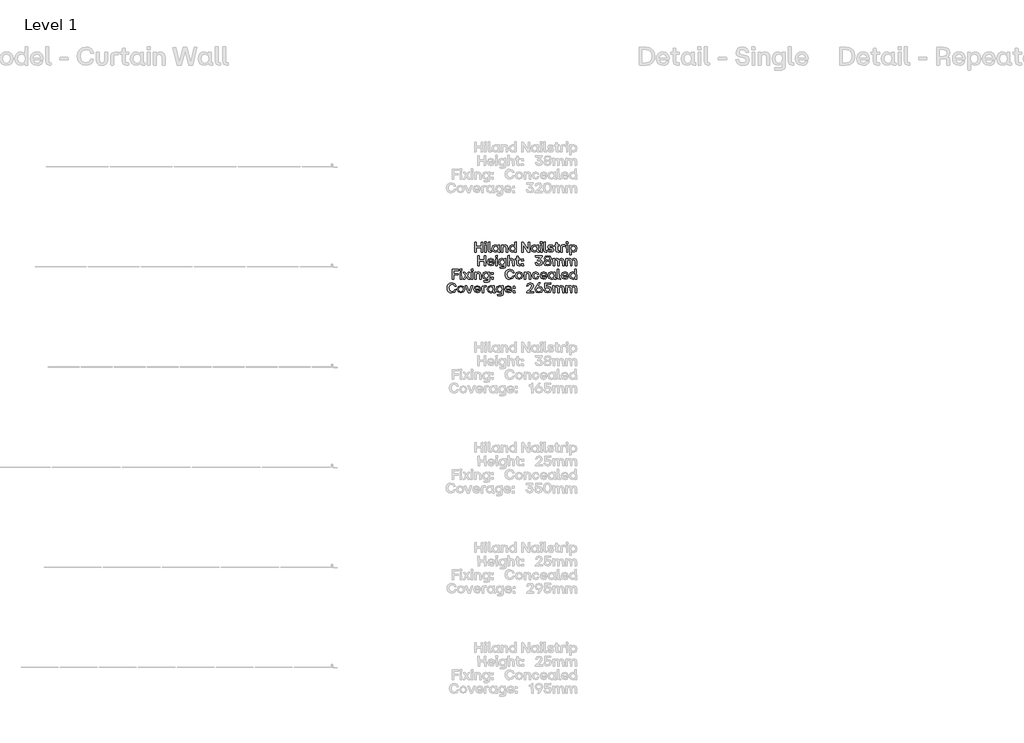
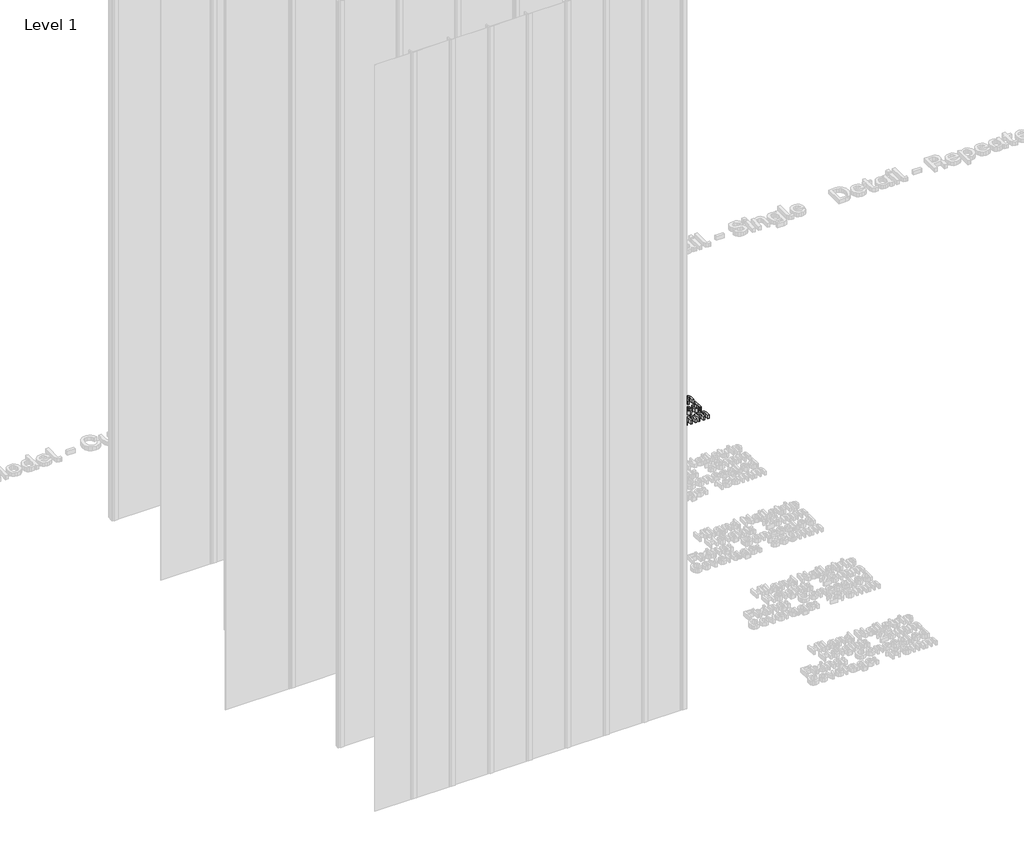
# One storey, part 30 of 64: 1 proxy.
"""IFC4 building model written with IfcOpenShell, lengths in millimetres."""

import ifcopenshell
import ifcopenshell.guid

model = None  # the IFC model being written
_history = None  # IfcOwnerHistory: only IFC2X3 demands one
_inside = {}  # id of a spatial element -> (the spatial element, [elements in it])
_under = {}  # id of a project, library or spatial element -> (it, [spatial elements below it])
_declared = {}  # id of a project -> (the project, [libraries it declares])
_typed = {}  # id of a type object -> (the type object, [elements of that type])
_made_of = {}  # id of a material, layer set ... -> (it, [elements and type objects made of it])


def new_model(schema):
    """Start an empty IFC model of exactly this schema.

    Asked for "IFC4X3", IfcOpenShell would pick the latest addendum, in which some entities
    have other attributes; the version numbers below select the first issue.
    IFC2X3 requires an IfcOwnerHistory on every rooted entity: one is made here for all.
    """
    global model, _history
    if schema == "IFC4X3":
        model = ifcopenshell.file(schema_version=(4, 3, 0, 0))
    else:
        model = ifcopenshell.file(schema=schema)
    _inside.clear()
    _under.clear()
    _declared.clear()
    _typed.clear()
    _made_of.clear()
    _history = None
    if model.schema == "IFC2X3":
        org = make("IfcOrganization", Name="unknown")
        user = make(
            "IfcPersonAndOrganization",
            ThePerson=make("IfcPerson", FamilyName="unknown"),
            TheOrganization=org,
        )
        app = make(
            "IfcApplication",
            ApplicationDeveloper=org,
            Version="unknown",
            ApplicationFullName="unknown",
            ApplicationIdentifier="unknown",
        )
        _history = make(
            "IfcOwnerHistory",
            OwningUser=user,
            OwningApplication=app,
            ChangeAction="ADDED",
            CreationDate=0,
        )
    return model


def make(cls, **values):
    """One entity of the class cls with the attributes given. An attribute that is None is left unset."""
    return model.create_entity(
        cls, **{name: value for name, value in values.items() if value is not None}
    )


def rooted(cls, **values):
    """An entity with a GlobalId (a new one), such as an element, a storey or a relation."""
    return make(cls, GlobalId=ifcopenshell.guid.new(), OwnerHistory=_history, **values)


def si_unit(unit_type, name, prefix=None):
    """IfcSIUnit, for example si_unit("LENGTHUNIT", "METRE", prefix="MILLI")."""
    return make("IfcSIUnit", UnitType=unit_type, Prefix=prefix, Name=name)


def assignment(units):
    """IfcUnitAssignment: the units of a project."""
    return None if units is None else make("IfcUnitAssignment", Units=units)


def point(xyz):
    """IfcCartesianPoint."""
    return None if xyz is None else make("IfcCartesianPoint", Coordinates=xyz)


def direction(xyz):
    """IfcDirection."""
    return None if xyz is None else make("IfcDirection", DirectionRatios=xyz)


def frame(location, z_axis=None, x_axis=None):
    """IfcAxis2Placement3D, a coordinate frame: its origin and axes. An axis left out is left unset."""
    return make(
        "IfcAxis2Placement3D",
        Location=point(location),
        Axis=direction(z_axis),
        RefDirection=direction(x_axis),
    )


def origin():
    """The frame at (0, 0, 0) with its axes left unset."""
    return frame((0.0, 0.0, 0.0))


def origin_with_axes():
    """The frame at (0, 0, 0) with the z axis (0, 0, 1) and the x axis (1, 0, 0) written out."""
    return frame((0.0, 0.0, 0.0), z_axis=(0.0, 0.0, 1.0), x_axis=(1.0, 0.0, 0.0))


def place(relative_to, where):
    """IfcLocalPlacement: puts the frame where relative to a parent placement (None: the world)."""
    return make(
        "IfcLocalPlacement", PlacementRelTo=relative_to, RelativePlacement=where
    )


def context(
    kind, dimensions, precision=None, world=None, true_north=None, identifier=None
):
    """IfcGeometricRepresentationContext, for example the 3D "Model" context."""
    return make(
        "IfcGeometricRepresentationContext",
        ContextIdentifier=identifier,
        ContextType=kind,
        CoordinateSpaceDimension=dimensions,
        Precision=precision,
        WorldCoordinateSystem=world,
        TrueNorth=true_north,
    )


def project(units=None, contexts=None):
    """IfcProject with its units and contexts."""
    return rooted(
        "IfcProject",
        Name="project",
        RepresentationContexts=contexts,
        UnitsInContext=assignment(units),
    )


def spatial(cls, under=None, at=None, **own):
    """A site, building, storey or space (cls), placed at a placement, below another one or the project."""
    s = rooted(cls, ObjectPlacement=at, **own)
    if under is not None:
        _under.setdefault(under.id(), (under, []))[1].append(s)
    return s


def polyline(points):
    """IfcPolyline through the points."""
    return make("IfcPolyline", Points=[point(p) for p in points])


def outline(outer, holes=None, kind="AREA"):
    """IfcArbitraryClosedProfileDef: a profile drawn as a closed curve; with holes, ...WithVoids."""
    if holes is None:
        return make("IfcArbitraryClosedProfileDef", ProfileType=kind, OuterCurve=outer)
    return make(
        "IfcArbitraryProfileDefWithVoids",
        ProfileType=kind,
        OuterCurve=outer,
        InnerCurves=holes,
    )


def extrude(swept, where, along, depth):
    """IfcExtrudedAreaSolid: the profile swept, set in the frame where, extruded along a direction by depth."""
    return make(
        "IfcExtrudedAreaSolid",
        SweptArea=swept,
        Position=where,
        ExtrudedDirection=direction(along),
        Depth=depth,
    )


def shape(context_of_items, identifier, shape_type, items):
    """IfcShapeRepresentation: the items that make up one representation, for example the "Body"."""
    return make(
        "IfcShapeRepresentation",
        ContextOfItems=context_of_items,
        RepresentationIdentifier=identifier,
        RepresentationType=shape_type,
        Items=items,
    )


def made_of(thing, what):
    """Note that an element or type object is made of a material, layer set ...; save() writes the relation."""
    if what is not None:
        _made_of.setdefault(what.id(), (what, []))[1].append(thing)
    return thing


def element(
    cls,
    number,
    at=None,
    inside=None,
    cuts=None,
    type_object=None,
    material=None,
    context=None,
    identifier="Body",
    shape_type=None,
    held_by="IfcProductDefinitionShape",
    body=None,
    shapes=None,
    **own,
):
    """One element of the class cls, such as IfcWall. Its Tag is "e" and its number.

    at: its placement. inside: the storey or other place that contains it. cuts: it is an
    opening in that element (IfcRelVoidsElement). A single representation is given by context,
    identifier, shape_type and body (its items); several are given by shapes. held_by: the class
    of the entity that holds the representations. save() writes the other relations.
    """
    e = rooted(cls, Tag="e%d" % number, ObjectPlacement=at, **own)
    if body is not None:
        shapes = [shape(context, identifier, shape_type, body)]
    if shapes is not None:
        e.Representation = make(held_by, Representations=shapes)
    if inside is not None:
        _inside.setdefault(inside.id(), (inside, []))[1].append(e)
    if cuts is not None:
        rooted(
            "IfcRelVoidsElement", RelatingBuildingElement=cuts, RelatedOpeningElement=e
        )
    if type_object is not None:
        _typed.setdefault(type_object.id(), (type_object, []))[1].append(e)
    return made_of(e, material)


def aggregate(whole, parts):
    """IfcRelAggregates: a whole, such as a stair, and the parts it consists of."""
    return rooted("IfcRelAggregates", RelatingObject=whole, RelatedObjects=parts)


def save(model, path):
    """Write the relations noted so far, then the file.

    IfcRelAggregates (storeys below a building ...), IfcRelContainedInSpatialStructure (elements
    in a storey), IfcRelDefinesByType, IfcRelAssociatesMaterial and IfcRelDeclares: one each for
    every whole, place, type object, material and project.
    """
    for whole, parts in _under.values():
        aggregate(whole, parts)
    for where, things in _inside.values():
        rooted(
            "IfcRelContainedInSpatialStructure",
            RelatedElements=things,
            RelatingStructure=where,
        )
    for kind, things in _typed.values():
        rooted("IfcRelDefinesByType", RelatedObjects=things, RelatingType=kind)
    for what, things in _made_of.values():
        rooted("IfcRelAssociatesMaterial", RelatedObjects=things, RelatingMaterial=what)
    for by, libraries in _declared.values():
        rooted("IfcRelDeclares", RelatingContext=by, RelatedDefinitions=libraries)
    model.write(path)


model = new_model("IFC4")

# Units and contexts
model_context = context("Model", 3, world=origin())
ifc_project = project(units=[si_unit("LENGTHUNIT", "METRE", prefix="MILLI")], contexts=[model_context])

# Site, building, storey
site = spatial("IfcSite", under=ifc_project)
building = spatial("IfcBuilding", under=site)
storey = spatial("IfcBuildingStorey", under=building, Name="Level 1", Elevation=0.0)

# Proxy
placement = place(None, origin())
element("IfcBuildingElementProxy", 1, Name="50mm", ObjectType="50mm", at=placement, inside=storey, context=model_context, shape_type="SweptSolid", body=[
    extrude(outline(polyline([(2520.0683519, -2433.5188866), (2519.3710201, -2411.5808277), (2495.5222721, -2411.5808277), (2495.5222721, -2432.8215548), (2488.0189817, -2433.5188866), (2487.2937566, -2384.2454206), (2494.7831003, -2383.5201955), (2495.5222721, -2404.6075096), (2519.3710201, -2404.6075096), (2519.3710201, -2384.2454206), (2526.8603638, -2383.5201955), (2527.5576956, -2432.8215548), (2520.0683519, -2433.5188866)])), origin_with_axes(), (0.0, 0.0, 1.0), 20.0),
    extrude(outline(polyline([(2537.6550603, -2433.5188866), (2536.9298352, -2397.8154977), (2544.1402462, -2397.1181659), (2544.837578, -2432.8215548), (2537.6550603, -2433.5188866)])), origin_with_axes(), (0.0, 0.0, 1.0), 20.0),
    extrude(outline(polyline([(2536.7206357, -2390.4516737), (2536.3719698, -2382.4044646), (2544.7678448, -2381.6652929), (2545.5070165, -2390.1030078), (2536.7206357, -2390.4516737)])), origin_with_axes(), (0.0, 0.0, 1.0), 20.0),
    extrude(outline(polyline([(2564.2373491, -2433.5188866), (2556.5388058, -2430.8690257), (2553.8889449, -2423.1565359), (2553.8889449, -2382.8228637), (2561.0993559, -2382.083692), (2561.7966877, -2427.2429003), (2568.4631799, -2427.2429003), (2569.1605117, -2432.8215548), (2564.2373491, -2433.5188866)])), origin_with_axes(), (0.0, 0.0, 1.0), 20.0),
    extrude(outline(polyline([(2589.3273478, -2433.9372857), (2577.5563867, -2428.8955767), (2573.1771429, -2415.3882594), (2577.5563867, -2401.7484491), (2589.3273478, -2396.6579269), (2595.9450267, -2398.2617901), (2600.9309491, -2402.6549805), (2601.2517218, -2397.8154977), (2608.4342395, -2397.1181659), (2609.1594646, -2427.2429003), (2613.1063626, -2427.2429003), (2613.8036944, -2432.8215548), (2607.8066408, -2433.5188866), (2603.151951, -2432.2113895), (2601.6003877, -2428.288898), (2596.2448794, -2432.3334225), (2589.3273478, -2433.9372857)]), holes=[polyline([(2581.2382987, -2415.3882594), (2583.9927594, -2424.2792401), (2591.5169696, -2427.521833), (2598.8807936, -2424.2931867), (2601.5306545, -2415.3882594), (2598.8598737, -2406.392679), (2591.5169696, -2403.1152195), (2583.9927594, -2406.392679), (2581.2382987, -2415.3882594)])]), origin_with_axes(), (0.0, 0.0, 1.0), 20.0),
    extrude(outline(polyline([(2620.6654395, -2433.5188866), (2619.9402144, -2397.8154977), (2626.8019595, -2397.1181659), (2627.4992913, -2402.6549805), (2632.6630334, -2398.1571903), (2639.2841989, -2396.6579269), (2648.8446181, -2400.8419178), (2652.1569442, -2413.0870644), (2652.1569442, -2432.8215548), (2644.9325866, -2433.5188866), (2644.2073616, -2413.0870644), (2642.2548325, -2405.7092939), (2636.0834459, -2403.3941522), (2629.8562728, -2405.7441604), (2627.8479572, -2413.0870644), (2627.8479572, -2432.8215548), (2620.6654395, -2433.5188866)])), origin_with_axes(), (0.0, 0.0, 1.0), 20.0),
    extrude(outline(polyline([(2675.0154811, -2433.9372857), (2663.2445201, -2428.8955767), (2658.8652763, -2415.3882594), (2663.2445201, -2401.7484491), (2675.0154811, -2396.6579269), (2681.63316, -2398.2617901), (2686.6190825, -2402.6549805), (2686.9398552, -2382.8228637), (2694.1223728, -2382.083692), (2694.8475979, -2432.8215548), (2687.9858529, -2433.5188866), (2687.2885211, -2428.0099653), (2681.9330127, -2432.3334225), (2675.0154811, -2433.9372857)]), holes=[polyline([(2666.9264321, -2415.3882594), (2669.6808927, -2424.2792401), (2677.205103, -2427.521833), (2684.568927, -2424.2931867), (2687.2187879, -2415.3882594), (2684.548007, -2406.392679), (2677.205103, -2403.1152195), (2669.6808927, -2406.392679), (2666.9264321, -2415.3882594)])]), origin_with_axes(), (0.0, 0.0, 1.0), 20.0),
    extrude(outline(polyline([(2721.8761791, -2433.5188866), (2721.150954, -2384.2454206), (2730.007068, -2383.5201955), (2753.2979506, -2420.7856077), (2753.5768834, -2384.2454206), (2760.7872943, -2383.5201955), (2761.4846261, -2432.8215548), (2752.670352, -2433.5188866), (2729.3794694, -2396.2395278), (2729.1005367, -2432.8215548), (2721.8761791, -2433.5188866)])), origin_with_axes(), (0.0, 0.0, 1.0), 20.0),
    extrude(outline(polyline([(2784.803402, -2433.9372857), (2773.032441, -2428.8955767), (2768.6531972, -2415.3882594), (2773.032441, -2401.7484491), (2784.803402, -2396.6579269), (2791.4210809, -2398.2617901), (2796.4070034, -2402.6549805), (2796.727776, -2397.8154977), (2803.9102937, -2397.1181659), (2804.6355188, -2427.2429003), (2808.5824169, -2427.2429003), (2809.2797487, -2432.8215548), (2803.2826951, -2433.5188866), (2798.6280052, -2432.2113895), (2797.076442, -2428.288898), (2791.7209336, -2432.3334225), (2784.803402, -2433.9372857)]), holes=[polyline([(2776.714353, -2415.3882594), (2779.4688136, -2424.2792401), (2786.9930239, -2427.521833), (2794.3568479, -2424.2931867), (2797.0067088, -2415.3882594), (2794.3359279, -2406.392679), (2786.9930239, -2403.1152195), (2779.4688136, -2406.392679), (2776.714353, -2415.3882594)])]), origin_with_axes(), (0.0, 0.0, 1.0), 20.0),
    extrude(outline(polyline([(2815.2070691, -2390.4516737), (2814.8584032, -2382.4044646), (2823.2542783, -2381.6652929), (2823.99345, -2390.1030078), (2815.2070691, -2390.4516737)])), origin_with_axes(), (0.0, 0.0, 1.0), 20.0),
    extrude(outline(polyline([(2816.1414938, -2433.5188866), (2815.4162687, -2397.8154977), (2822.6266796, -2397.1181659), (2823.3240115, -2432.8215548), (2816.1414938, -2433.5188866)])), origin_with_axes(), (0.0, 0.0, 1.0), 20.0),
    extrude(outline(polyline([(2842.7237825, -2433.5188866), (2835.0252393, -2430.8690257), (2832.3753784, -2423.1565359), (2832.3753784, -2382.8228637), (2839.5857894, -2382.083692), (2840.2831212, -2427.2429003), (2846.9496133, -2427.2429003), (2847.6469451, -2432.8215548), (2842.7237825, -2433.5188866)])), origin_with_axes(), (0.0, 0.0, 1.0), 20.0),
    extrude(outline(polyline([(2867.283809, -2433.9372857), (2856.5518724, -2430.9875721), (2852.0819755, -2422.5289372), (2859.0274004, -2421.7339789), (2862.109607, -2426.5455685), (2867.283809, -2427.8007657), (2871.7467327, -2426.6153017), (2873.420329, -2423.4354686), (2872.2209183, -2420.5764081), (2868.1624471, -2419.0841181), (2863.0719249, -2418.1775867), (2855.3454884, -2414.6351411), (2852.8490405, -2407.5363032), (2856.5100325, -2399.6215871), (2866.3772777, -2396.6579269), (2876.0701899, -2399.4123876), (2880.2960207, -2407.2294772), (2873.3505958, -2408.0244355), (2870.6031085, -2403.8613645), (2866.3772777, -2402.7944469), (2862.1235536, -2403.8962311), (2860.6591568, -2407.0900108), (2861.7051545, -2409.8584181), (2865.5125862, -2411.3716282), (2870.9517744, -2412.3897326), (2878.9641169, -2415.8763917), (2881.2304453, -2423.0170695), (2877.6043199, -2431.1130919), (2867.283809, -2433.9372857)])), origin_with_axes(), (0.0, 0.0, 1.0), 20.0),
    extrude(outline(polyline([(2903.0429845, -2433.5188866), (2895.3304946, -2430.8690257), (2892.6806337, -2423.1565359), (2892.6806337, -2403.3941522), (2886.4743806, -2403.3941522), (2885.7491555, -2397.8154977), (2892.6806337, -2397.1181659), (2892.6806337, -2387.104481), (2899.9049913, -2386.3792559), (2900.6023231, -2397.1181659), (2909.388704, -2397.1181659), (2910.1139291, -2402.6549805), (2900.6023231, -2403.3941522), (2900.6023231, -2427.2429003), (2909.388704, -2427.2429003), (2910.1139291, -2432.8215548), (2903.0429845, -2433.5188866)])), origin_with_axes(), (0.0, 0.0, 1.0), 20.0),
    extrude(outline(polyline([(2917.519593, -2433.5188866), (2916.8222612, -2407.4386768), (2919.4721221, -2399.7471068), (2927.1706653, -2397.1181659), (2937.3238165, -2397.1181659), (2938.0211483, -2403.1152195), (2924.7300039, -2403.8125513), (2924.7300039, -2432.8215548), (2917.519593, -2433.5188866)])), origin_with_axes(), (0.0, 0.0, 1.0), 20.0),
    extrude(outline(polyline([(2945.5662786, -2433.5188866), (2944.8410535, -2397.8154977), (2952.0514644, -2397.1181659), (2952.7487962, -2432.8215548), (2945.5662786, -2433.5188866)])), origin_with_axes(), (0.0, 0.0, 1.0), 20.0),
    extrude(outline(polyline([(2944.6318539, -2390.4516737), (2944.283188, -2382.4044646), (2952.6790631, -2381.6652929), (2953.4182348, -2390.1030078), (2944.6318539, -2390.4516737)])), origin_with_axes(), (0.0, 0.0, 1.0), 20.0),
    extrude(outline(polyline([(2962.5253883, -2447.0750171), (2961.8001632, -2397.8154977), (2968.6619083, -2397.1181659), (2969.3592401, -2402.5852473), (2974.7147484, -2398.2617901), (2981.63228, -2396.6579269), (2993.403241, -2401.7135826), (2997.7824848, -2415.2487931), (2993.403241, -2428.8607101), (2981.63228, -2433.9372857), (2975.0146011, -2432.3334225), (2970.0286786, -2427.9402321), (2969.707906, -2446.3776853), (2962.5253883, -2447.0750171)]), holes=[polyline([(2969.4289732, -2415.2487931), (2972.0997541, -2424.2443735), (2979.4426581, -2427.521833), (2986.9668684, -2424.2443735), (2989.7213291, -2415.2487931), (2986.9668684, -2406.3578124), (2979.4426581, -2403.1152195), (2972.0788341, -2406.3368925), (2969.4289732, -2415.2487931)])]), origin_with_axes(), (0.0, 0.0, 1.0), 20.0),
    extrude(outline(polyline([(2534.3497075, -2501.3705811), (2533.6523757, -2479.4325222), (2509.8036276, -2479.4325222), (2509.8036276, -2500.6732493), (2502.3003373, -2501.3705811), (2501.5751122, -2452.0971151), (2509.0644559, -2451.37189), (2509.8036276, -2472.459204), (2533.6523757, -2472.459204), (2533.6523757, -2452.0971151), (2541.1417194, -2451.37189), (2541.8390512, -2500.6732493), (2534.3497075, -2501.3705811)])), origin_with_axes(), (0.0, 0.0, 1.0), 20.0),
    extrude(outline(polyline([(2567.4869153, -2501.7889802), (2554.0841978, -2496.7472711), (2549.0773554, -2483.2399539), (2554.0632779, -2469.586197), (2567.4869153, -2464.5096214), (2579.7669286, -2469.5164638), (2584.2647188, -2483.1702207), (2584.2647188, -2485.0809099), (2557.2082444, -2485.8200816), (2560.2765044, -2492.8631329), (2567.4869153, -2495.3735275), (2573.2747694, -2494.0974102), (2576.2732962, -2490.520098), (2583.3581874, -2489.9343393), (2578.7000109, -2498.6998002), (2567.4869153, -2501.7889802)]), holes=[polyline([(2557.2779776, -2480.0322275), (2576.4824957, -2480.0322275), (2573.8396081, -2473.3866554), (2567.4869153, -2470.966914), (2560.3950508, -2473.2681089), (2557.2779776, -2480.0322275)])]), origin_with_axes(), (0.0, 0.0, 1.0), 20.0),
    extrude(outline(polyline([(2591.1683037, -2458.3033682), (2590.8196378, -2450.2561591), (2599.2155129, -2449.5169873), (2599.9546846, -2457.9547023), (2591.1683037, -2458.3033682)])), origin_with_axes(), (0.0, 0.0, 1.0), 20.0),
    extrude(outline(polyline([(2592.1027284, -2501.3705811), (2591.3775033, -2465.6671922), (2598.5879142, -2464.9698603), (2599.2852461, -2500.6732493), (2592.1027284, -2501.3705811)])), origin_with_axes(), (0.0, 0.0, 1.0), 20.0),
    extrude(outline(polyline([(2613.7758012, -2514.9267115), (2613.0366294, -2509.348057), (2634.2773565, -2508.6507252), (2634.2773565, -2495.7919266), (2628.9706614, -2500.185117), (2622.3529825, -2501.7889802), (2610.5820215, -2496.7124045), (2606.2027777, -2483.1004875), (2610.5820215, -2469.565277), (2622.3529825, -2464.5096214), (2629.2705141, -2466.1134845), (2634.3470897, -2470.4369418), (2634.6260224, -2465.6671922), (2641.4598742, -2464.9698603), (2642.1850993, -2504.9269733), (2639.6049716, -2512.3675038), (2632.1853611, -2514.9267115), (2613.7758012, -2514.9267115)]), holes=[polyline([(2614.2639334, -2483.1004875), (2617.0183941, -2492.0960679), (2624.5426044, -2495.3735275), (2631.8855084, -2492.0960679), (2634.5562892, -2483.1004875), (2631.9064284, -2474.1885869), (2624.5426044, -2470.966914), (2617.0183941, -2474.2095069), (2614.2639334, -2483.1004875)])]), origin_with_axes(), (0.0, 0.0, 1.0), 20.0),
    extrude(outline(polyline([(2651.9059048, -2501.3705811), (2651.1806797, -2450.6745581), (2658.3910907, -2449.9353864), (2659.0884225, -2470.2277422), (2664.1754581, -2465.9391516), (2670.5246642, -2464.5096214), (2680.0850834, -2468.6936122), (2683.3974095, -2480.9387589), (2683.3974095, -2500.6732493), (2676.1730519, -2501.3705811), (2675.4478269, -2480.9387589), (2673.4952978, -2473.5609883), (2667.3239112, -2471.2458467), (2661.0967381, -2473.5958549), (2659.0884225, -2480.9387589), (2659.0884225, -2500.6732493), (2651.9059048, -2501.3705811)])), origin_with_axes(), (0.0, 0.0, 1.0), 20.0),
    extrude(outline(polyline([(2706.6743455, -2501.3705811), (2698.9618556, -2498.7207202), (2696.3119947, -2491.0082303), (2696.3119947, -2471.2458467), (2690.1057416, -2471.2458467), (2689.3805165, -2465.6671922), (2696.3119947, -2464.9698603), (2696.3119947, -2454.9561755), (2703.5363523, -2454.2309504), (2704.2336842, -2464.9698603), (2713.020065, -2464.9698603), (2713.7452901, -2470.506675), (2704.2336842, -2471.2458467), (2704.2336842, -2495.0945947), (2713.020065, -2495.0945947), (2713.7452901, -2500.6732493), (2706.6743455, -2501.3705811)])), origin_with_axes(), (0.0, 0.0, 1.0), 20.0),
    extrude(outline(polyline([(2721.150954, -2477.7310326), (2720.4536222, -2468.1078535), (2729.9373348, -2467.3686818), (2730.6625599, -2477.0337007), (2721.150954, -2477.7310326)])), origin_with_axes(), (0.0, 0.0, 1.0), 20.0),
    extrude(outline(polyline([(2720.8022881, -2501.0219152), (2720.4536222, -2491.747402), (2729.9373348, -2491.0082303), (2730.6625599, -2500.6732493), (2720.8022881, -2501.0219152)])), origin_with_axes(), (0.0, 0.0, 1.0), 20.0),
    extrude(outline(polyline([(2808.2755909, -2501.7889802), (2794.8798467, -2497.7235357), (2789.0571261, -2485.959548), (2796.42095, -2485.1506431), (2800.584021, -2492.7236666), (2808.2755909, -2494.9551284), (2815.4162687, -2492.5493336), (2818.0661296, -2485.959548), (2815.2977223, -2479.0908296), (2806.6298878, -2476.8942344), (2801.1906997, -2476.8942344), (2800.4933678, -2472.8078699), (2813.8542454, -2458.6520341), (2791.1491215, -2458.3731014), (2790.4238964, -2452.0971151), (2824.1329164, -2451.37189), (2824.8302482, -2456.1834795), (2811.9296096, -2470.0882759), (2822.6545729, -2475.2136647), (2826.2667517, -2485.959548), (2821.4202956, -2497.5352561), (2808.2755909, -2501.7889802)])), origin_with_axes(), (0.0, 0.0, 1.0), 20.0),
    extrude(outline(polyline([(2865.4289064, -2498.1768014), (2851.3846437, -2501.7889802), (2837.3124877, -2498.1768014), (2832.3753784, -2487.8702371), (2834.8509064, -2480.1368273), (2841.5104252, -2475.8063967), (2835.9457173, -2471.1691402), (2834.0908147, -2464.370155), (2838.7768845, -2454.5796163), (2851.3776704, -2450.9534909), (2863.9645096, -2454.5796163), (2868.6366328, -2464.370155), (2866.7817301, -2471.1691402), (2861.2170223, -2475.527464), (2867.8765411, -2480.1368273), (2870.352069, -2487.8702371), (2865.4289064, -2498.1768014)]), holes=[polyline([(2840.5760005, -2486.9358125), (2843.2781613, -2492.9502994), (2851.3846437, -2494.9551284), (2859.4597461, -2492.9502994), (2862.1514469, -2486.9358125), (2859.4597461, -2481.3606446), (2851.3846437, -2479.5022554), (2843.2781613, -2481.3606446), (2840.5760005, -2486.9358125)]), polyline([(2842.3193301, -2465.4579926), (2844.6553917, -2470.8065276), (2851.3846437, -2472.6684036), (2858.1138957, -2470.8065276), (2860.4499573, -2465.4579926), (2858.1138957, -2459.788685), (2851.3846437, -2457.8152359), (2844.6553917, -2459.788685), (2842.3193301, -2465.4579926)])]), origin_with_axes(), (0.0, 0.0, 1.0), 20.0),
    extrude(outline(polyline([(2878.6224244, -2501.3705811), (2877.8971993, -2465.6671922), (2884.7589443, -2464.9698603), (2885.4562761, -2470.506675), (2890.4421986, -2466.0088848), (2896.8925179, -2464.5096214), (2903.1789642, -2466.0088848), (2907.394335, -2470.506675), (2913.2170557, -2466.0646713), (2920.4623332, -2464.5096214), (2929.7368464, -2468.6796656), (2932.9445727, -2480.9387589), (2932.9445727, -2500.6732493), (2925.7341617, -2501.3705811), (2925.0368299, -2480.9387589), (2923.154034, -2473.5609883), (2917.1848737, -2471.2458467), (2911.2784732, -2473.5958549), (2909.3747574, -2480.9387589), (2909.3747574, -2500.6732493), (2902.1643464, -2501.3705811), (2901.4670146, -2480.9387589), (2899.5981653, -2473.5609883), (2893.6847915, -2471.2458467), (2887.7086579, -2473.5958549), (2885.804942, -2480.9387589), (2885.804942, -2500.6732493), (2878.6224244, -2501.3705811)])), origin_with_axes(), (0.0, 0.0, 1.0), 20.0),
    extrude(outline(polyline([(2941.9959397, -2501.3705811), (2941.2707146, -2465.6671922), (2948.1324596, -2464.9698603), (2948.8297914, -2470.506675), (2953.8157139, -2466.0088848), (2960.2660332, -2464.5096214), (2966.5524795, -2466.0088848), (2970.7678503, -2470.506675), (2976.590571, -2466.0646713), (2983.8358485, -2464.5096214), (2993.1103617, -2468.6796656), (2996.318088, -2480.9387589), (2996.318088, -2500.6732493), (2989.1076771, -2501.3705811), (2988.4103452, -2480.9387589), (2986.5275493, -2473.5609883), (2980.558389, -2471.2458467), (2974.6519885, -2473.5958549), (2972.7482727, -2480.9387589), (2972.7482727, -2500.6732493), (2965.5378617, -2501.3705811), (2964.8405299, -2480.9387589), (2962.9716806, -2473.5609883), (2957.0583069, -2471.2458467), (2951.0821732, -2473.5958549), (2949.1784574, -2480.9387589), (2949.1784574, -2500.6732493), (2941.9959397, -2501.3705811)])), origin_with_axes(), (0.0, 0.0, 1.0), 20.0),
    extrude(outline(polyline([(2374.6607219, -2569.2222755), (2373.9354969, -2519.9488095), (2405.5246281, -2519.2235844), (2406.2219599, -2525.527464), (2382.1640123, -2526.2247958), (2382.1640123, -2541.287163), (2404.0881245, -2541.287163), (2404.7854563, -2547.5631494), (2382.1640123, -2548.3023211), (2382.1640123, -2568.5249437), (2374.6607219, -2569.2222755)])), origin_with_axes(), (0.0, 0.0, 1.0), 20.0),
    extrude(outline(polyline([(2414.4783686, -2569.2222755), (2413.7531435, -2533.5188866), (2420.9635544, -2532.8215548), (2421.6608863, -2568.5249437), (2414.4783686, -2569.2222755)])), origin_with_axes(), (0.0, 0.0, 1.0), 20.0),
    extrude(outline(polyline([(2413.5439439, -2526.1550627), (2413.195278, -2518.1078535), (2421.5911531, -2517.3686818), (2422.3303248, -2525.8063967), (2413.5439439, -2526.1550627)])), origin_with_axes(), (0.0, 0.0, 1.0), 20.0),
    extrude(outline(polyline([(2428.5784179, -2569.2222755), (2441.3395901, -2550.7429824), (2429.1362833, -2533.658353), (2437.1277059, -2532.8215548), (2445.9140868, -2544.815662), (2454.1426022, -2533.2399539), (2462.2595445, -2532.8215548), (2450.6559431, -2549.9340775), (2463.696048, -2568.3436374), (2455.7046254, -2569.2222755), (2445.9838199, -2555.7916648), (2436.7093068, -2568.8038764), (2428.5784179, -2569.2222755)])), origin_with_axes(), (0.0, 0.0, 1.0), 20.0),
    extrude(outline(polyline([(2470.7112061, -2569.2222755), (2469.985981, -2533.5188866), (2477.196392, -2532.8215548), (2477.8937238, -2568.5249437), (2470.7112061, -2569.2222755)])), origin_with_axes(), (0.0, 0.0, 1.0), 20.0),
    extrude(outline(polyline([(2469.7767815, -2526.1550627), (2469.4281156, -2518.1078535), (2477.8239906, -2517.3686818), (2478.5631623, -2525.8063967), (2469.7767815, -2526.1550627)])), origin_with_axes(), (0.0, 0.0, 1.0), 20.0),
    extrude(outline(polyline([(2487.6703158, -2569.2222755), (2486.9450907, -2533.5188866), (2493.8068358, -2532.8215548), (2494.5041676, -2538.3583694), (2499.6679097, -2533.8605792), (2506.2890753, -2532.3613158), (2515.8494944, -2536.5453067), (2519.1618206, -2548.7904534), (2519.1618206, -2568.5249437), (2511.937463, -2569.2222755), (2511.2122379, -2548.7904534), (2509.2597088, -2541.4126828), (2503.0883222, -2539.0975411), (2496.8611491, -2541.4475493), (2494.8528335, -2548.7904534), (2494.8528335, -2568.5249437), (2487.6703158, -2569.2222755)])), origin_with_axes(), (0.0, 0.0, 1.0), 20.0),
    extrude(outline(polyline([(2533.4431761, -2582.778406), (2532.7040044, -2577.1997515), (2553.9447315, -2576.5024197), (2553.9447315, -2563.643621), (2548.6380364, -2568.0368114), (2542.0203574, -2569.6406746), (2530.2493964, -2564.564099), (2525.8701526, -2550.952182), (2530.2493964, -2537.4169715), (2542.0203574, -2532.3613158), (2548.9378891, -2533.965179), (2554.0144647, -2538.2886362), (2554.2933974, -2533.5188866), (2561.1272492, -2532.8215548), (2561.8524743, -2572.7786678), (2559.2723465, -2580.2191982), (2551.852736, -2582.778406), (2533.4431761, -2582.778406)]), holes=[polyline([(2533.9313084, -2550.952182), (2536.6857691, -2559.9477624), (2544.2099793, -2563.2252219), (2551.5528834, -2559.9477624), (2554.2236642, -2550.952182), (2551.5738033, -2542.0402814), (2544.2099793, -2538.8186084), (2536.6857691, -2542.0612013), (2533.9313084, -2550.952182)])]), origin_with_axes(), (0.0, 0.0, 1.0), 20.0),
    extrude(outline(polyline([(2571.1967206, -2545.582727), (2570.4993888, -2535.959548), (2579.9831014, -2535.2203762), (2580.7083265, -2544.8853952), (2571.1967206, -2545.582727)])), origin_with_axes(), (0.0, 0.0, 1.0), 20.0),
    extrude(outline(polyline([(2570.8480547, -2568.8736096), (2570.4993888, -2559.5990965), (2579.9831014, -2558.8599248), (2580.7083265, -2568.5249437), (2570.8480547, -2568.8736096)])), origin_with_axes(), (0.0, 0.0, 1.0), 20.0),
    extrude(outline(polyline([(2662.9516407, -2569.6406746), (2652.9449292, -2567.9269817), (2645.2394126, -2562.7859029), (2640.3232234, -2554.7160305), (2638.6844936, -2544.2159567), (2640.33717, -2533.8919591), (2645.2951992, -2525.7924501), (2653.0146624, -2520.5520015), (2662.9516407, -2518.8051853), (2677.1283965, -2523.4215219), (2684.0807947, -2535.7085085), (2676.7588107, -2536.5174134), (2671.5950686, -2528.3272513), (2662.9516407, -2525.8063967), (2651.2922528, -2530.743506), (2647.0524754, -2544.2159567), (2651.2713328, -2557.7999804), (2662.9516407, -2562.6673565), (2671.7659149, -2560.1813685), (2676.4519847, -2552.7234048), (2683.8715952, -2552.0679129), (2677.4073293, -2565.0382846), (2662.9516407, -2569.6406746)])), origin_with_axes(), (0.0, 0.0, 1.0), 20.0),
    extrude(outline(polyline([(2708.306102, -2569.6406746), (2695.1474506, -2564.5152858), (2690.1057416, -2551.0916483), (2695.1613973, -2537.5564378), (2708.306102, -2532.3613158), (2721.5763264, -2537.5564378), (2726.6459287, -2551.0916483), (2721.5763264, -2564.5152858), (2708.306102, -2569.6406746)]), holes=[polyline([(2698.1668974, -2551.0916483), (2700.8655715, -2559.9965756), (2708.306102, -2563.2252219), (2715.8442589, -2559.982629), (2718.5987195, -2551.0916483), (2715.8582055, -2542.0960679), (2708.306102, -2538.8186084), (2700.8655715, -2542.0960679), (2698.1668974, -2551.0916483)])]), origin_with_axes(), (0.0, 0.0, 1.0), 20.0),
    extrude(outline(polyline([(2734.916284, -2569.2222755), (2734.1910589, -2533.5188866), (2741.052804, -2532.8215548), (2741.7501358, -2538.3583694), (2746.9138779, -2533.8605792), (2753.5350435, -2532.3613158), (2763.0954626, -2536.5453067), (2766.4077887, -2548.7904534), (2766.4077887, -2568.5249437), (2759.1834311, -2569.2222755), (2758.4582061, -2548.7904534), (2756.505677, -2541.4126828), (2750.3342904, -2539.0975411), (2744.1071173, -2541.4475493), (2742.0988017, -2548.7904534), (2742.0988017, -2568.5249437), (2734.916284, -2569.2222755)])), origin_with_axes(), (0.0, 0.0, 1.0), 20.0),
    extrude(outline(polyline([(2791.4559475, -2569.6406746), (2778.1229632, -2564.5989656), (2773.1161208, -2551.0916483), (2778.1926964, -2537.5564378), (2791.4559475, -2532.3613158), (2802.5295767, -2535.7991616), (2807.7456187, -2544.8853952), (2800.7304607, -2545.6524602), (2797.1601218, -2540.3527384), (2791.4559475, -2538.8186084), (2783.8968707, -2542.0960679), (2781.1772766, -2551.0916483), (2783.9108173, -2560.0174956), (2791.4559475, -2563.2252219), (2797.3344547, -2561.7608251), (2800.3120616, -2557.0189688), (2807.3969528, -2556.3495302), (2802.7387763, -2566.2028288), (2791.4559475, -2569.6406746)])), origin_with_axes(), (0.0, 0.0, 1.0), 20.0),
    extrude(outline(polyline([(2831.6919932, -2569.6406746), (2818.2892758, -2564.5989656), (2813.2824333, -2551.0916483), (2818.2683558, -2537.4378914), (2831.6919932, -2532.3613158), (2843.9720065, -2537.3681582), (2848.4697967, -2551.0219152), (2848.4697967, -2552.9326043), (2821.4133223, -2553.6717761), (2824.4815823, -2560.7148274), (2831.6919932, -2563.2252219), (2837.4798473, -2561.9491047), (2840.4783741, -2558.3717925), (2847.5632653, -2557.7860338), (2842.9050888, -2566.5514947), (2831.6919932, -2569.6406746)]), holes=[polyline([(2821.4830555, -2547.883922), (2840.6875736, -2547.883922), (2838.0446861, -2541.2383498), (2831.6919932, -2538.8186084), (2824.6001287, -2541.1198034), (2821.4830555, -2547.883922)])]), origin_with_axes(), (0.0, 0.0, 1.0), 20.0),
    extrude(outline(polyline([(2869.5989507, -2569.6406746), (2857.8279896, -2564.5989656), (2853.4487458, -2551.0916483), (2857.8279896, -2537.4518381), (2869.5989507, -2532.3613158), (2876.2166296, -2533.965179), (2881.2025521, -2538.3583694), (2881.5233247, -2533.5188866), (2888.7058424, -2532.8215548), (2889.4310675, -2562.9462892), (2893.3779655, -2562.9462892), (2894.0752974, -2568.5249437), (2888.0782438, -2569.2222755), (2883.4235539, -2567.9147784), (2881.8719906, -2563.9922869), (2876.5164823, -2568.0368114), (2869.5989507, -2569.6406746)]), holes=[polyline([(2861.5099016, -2551.0916483), (2864.2643623, -2559.982629), (2871.7885726, -2563.2252219), (2879.1523965, -2559.9965756), (2881.8022574, -2551.0916483), (2879.1314766, -2542.0960679), (2871.7885726, -2538.8186084), (2864.2643623, -2542.0960679), (2861.5099016, -2551.0916483)])]), origin_with_axes(), (0.0, 0.0, 1.0), 20.0),
    extrude(outline(polyline([(2910.5602215, -2569.2222755), (2902.8616782, -2566.5724146), (2900.2118173, -2558.8599248), (2900.2118173, -2518.5262526), (2907.4222283, -2517.7870809), (2908.1195601, -2562.9462892), (2914.7860523, -2562.9462892), (2915.4833841, -2568.5249437), (2910.5602215, -2569.2222755)])), origin_with_axes(), (0.0, 0.0, 1.0), 20.0),
    extrude(outline(polyline([(2937.9095752, -2569.6406746), (2924.5068578, -2564.5989656), (2919.5000153, -2551.0916483), (2924.4859378, -2537.4378914), (2937.9095752, -2532.3613158), (2950.1895885, -2537.3681582), (2954.6873787, -2551.0219152), (2954.6873787, -2552.9326043), (2927.6309043, -2553.6717761), (2930.6991643, -2560.7148274), (2937.9095752, -2563.2252219), (2943.6974293, -2561.9491047), (2946.6959561, -2558.3717925), (2953.7808473, -2557.7860338), (2949.1226708, -2566.5514947), (2937.9095752, -2569.6406746)]), holes=[polyline([(2927.7006375, -2547.883922), (2946.9051556, -2547.883922), (2944.2622681, -2541.2383498), (2937.9095752, -2538.8186084), (2930.8177107, -2541.1198034), (2927.7006375, -2547.883922)])]), origin_with_axes(), (0.0, 0.0, 1.0), 20.0),
    extrude(outline(polyline([(2975.8165327, -2569.6406746), (2964.0455716, -2564.5989656), (2959.6663278, -2551.0916483), (2964.0455716, -2537.4518381), (2975.8165327, -2532.3613158), (2982.4342116, -2533.965179), (2987.4201341, -2538.3583694), (2987.7409067, -2518.5262526), (2994.9234244, -2517.7870809), (2995.6486495, -2568.5249437), (2988.7869044, -2569.2222755), (2988.0895726, -2563.7133542), (2982.7340643, -2568.0368114), (2975.8165327, -2569.6406746)]), holes=[polyline([(2967.7274836, -2551.0916483), (2970.4819443, -2559.982629), (2978.0061546, -2563.2252219), (2985.3699785, -2559.9965756), (2988.0198394, -2551.0916483), (2985.3490586, -2542.0960679), (2978.0061546, -2538.8186084), (2970.4819443, -2542.0960679), (2967.7274836, -2551.0916483)])]), origin_with_axes(), (0.0, 0.0, 1.0), 20.0),
    extrude(outline(polyline([(2372.8616059, -2637.4923691), (2362.8548943, -2635.7786761), (2355.1493778, -2630.6375973), (2350.2331885, -2622.5677249), (2348.5944587, -2612.0676511), (2350.2471351, -2601.7436536), (2355.2051643, -2593.6441446), (2362.9246275, -2588.403696), (2372.8616059, -2586.6568798), (2387.0383617, -2591.2732164), (2393.9907598, -2603.560203), (2386.6687758, -2604.3691079), (2381.5050337, -2596.1789457), (2372.8616059, -2593.6580912), (2361.2022179, -2598.5952004), (2356.9624405, -2612.0676511), (2361.181298, -2625.6516749), (2372.8616059, -2630.5190509), (2381.67588, -2628.033063), (2386.3619498, -2620.5750992), (2393.7815603, -2619.9196073), (2387.3172944, -2632.8899791), (2372.8616059, -2637.4923691)])), origin_with_axes(), (0.0, 0.0, 1.0), 20.0),
    extrude(outline(polyline([(2418.2160671, -2637.4923691), (2405.0574157, -2632.3669802), (2400.0157067, -2618.9433428), (2405.0713624, -2605.4081323), (2418.2160671, -2600.2130103), (2431.4862915, -2605.4081323), (2436.5558938, -2618.9433428), (2431.4862915, -2632.3669802), (2418.2160671, -2637.4923691)]), holes=[polyline([(2408.0768625, -2618.9433428), (2410.7755366, -2627.8482701), (2418.2160671, -2631.0769164), (2425.754224, -2627.8343234), (2428.5086847, -2618.9433428), (2425.7681706, -2609.9477624), (2418.2160671, -2606.6703029), (2410.7755366, -2609.9477624), (2408.0768625, -2618.9433428)])]), origin_with_axes(), (0.0, 0.0, 1.0), 20.0),
    extrude(outline(polyline([(2454.6586277, -2637.07397), (2440.2656991, -2601.5100474), (2447.5179499, -2600.6732493), (2458.9541917, -2630.5887841), (2469.7907281, -2601.2311147), (2477.1545521, -2600.6732493), (2464.0447139, -2636.5161045), (2454.6586277, -2637.07397)])), origin_with_axes(), (0.0, 0.0, 1.0), 20.0),
    extrude(outline(polyline([(2499.6504764, -2637.4923691), (2486.2477589, -2632.45066), (2481.2409165, -2618.9433428), (2486.226839, -2605.2895859), (2499.6504764, -2600.2130103), (2511.9304896, -2605.2198527), (2516.4282799, -2618.8736096), (2516.4282799, -2620.7842988), (2489.3718054, -2621.5234705), (2492.4400654, -2628.5665218), (2499.6504764, -2631.0769164), (2505.4383305, -2629.8007992), (2508.4368573, -2626.2234869), (2515.5217485, -2625.6377282), (2510.863572, -2634.4031891), (2499.6504764, -2637.4923691)]), holes=[polyline([(2489.4415386, -2615.7356165), (2508.6460568, -2615.7356165), (2506.0031692, -2609.0900443), (2499.6504764, -2606.6703029), (2492.5586118, -2608.9714978), (2489.4415386, -2615.7356165)])]), origin_with_axes(), (0.0, 0.0, 1.0), 20.0),
    extrude(outline(polyline([(2523.8897303, -2637.07397), (2523.1923985, -2610.9937601), (2525.8422594, -2603.3021902), (2533.5408026, -2600.6732493), (2543.6939538, -2600.6732493), (2544.3912856, -2606.6703029), (2531.1001412, -2607.3676347), (2531.1001412, -2636.3766382), (2523.8897303, -2637.07397)])), origin_with_axes(), (0.0, 0.0, 1.0), 20.0),
    extrude(outline(polyline([(2565.2275602, -2637.4923691), (2553.4565992, -2632.45066), (2549.0773554, -2618.9433428), (2553.4565992, -2605.3035325), (2565.2275602, -2600.2130103), (2571.8452392, -2601.8168734), (2576.8311616, -2606.2100639), (2577.1519343, -2601.3705811), (2584.334452, -2600.6732493), (2585.059677, -2630.7979836), (2589.0065751, -2630.7979836), (2589.7039069, -2636.3766382), (2583.7068533, -2637.07397), (2579.0521635, -2635.7664728), (2577.5006002, -2631.8439814), (2572.1450918, -2635.8885059), (2565.2275602, -2637.4923691)]), holes=[polyline([(2557.1385112, -2618.9433428), (2559.8929719, -2627.8343234), (2567.4171821, -2631.0769164), (2574.7810061, -2627.8482701), (2577.430867, -2618.9433428), (2574.7600861, -2609.9477624), (2567.4171821, -2606.6703029), (2559.8929719, -2609.9477624), (2557.1385112, -2618.9433428)])]), origin_with_axes(), (0.0, 0.0, 1.0), 20.0),
    extrude(outline(polyline([(2601.2796151, -2650.6301005), (2600.5404433, -2645.0514459), (2621.7811704, -2644.3541141), (2621.7811704, -2631.4953155), (2616.4744753, -2635.8885059), (2609.8567964, -2637.4923691), (2598.0858353, -2632.4157935), (2593.7065915, -2618.8038764), (2598.0858353, -2605.2686659), (2609.8567964, -2600.2130103), (2616.774328, -2601.8168734), (2621.8509036, -2606.1403307), (2622.1298363, -2601.3705811), (2628.9636881, -2600.6732493), (2629.6889132, -2640.6303622), (2627.1087855, -2648.0708927), (2619.689175, -2650.6301005), (2601.2796151, -2650.6301005)]), holes=[polyline([(2601.7677473, -2618.8038764), (2604.522208, -2627.7994568), (2612.0464183, -2631.0769164), (2619.3893223, -2627.7994568), (2622.0601031, -2618.8038764), (2619.4102422, -2609.8919758), (2612.0464183, -2606.6703029), (2604.522208, -2609.9128958), (2601.7677473, -2618.8038764)])]), origin_with_axes(), (0.0, 0.0, 1.0), 20.0),
    extrude(outline(polyline([(2654.9602181, -2637.4923691), (2641.5575007, -2632.45066), (2636.5506582, -2618.9433428), (2641.5365807, -2605.2895859), (2654.9602181, -2600.2130103), (2667.2402314, -2605.2198527), (2671.7380216, -2618.8736096), (2671.7380216, -2620.7842988), (2644.6815472, -2621.5234705), (2647.7498072, -2628.5665218), (2654.9602181, -2631.0769164), (2660.7480722, -2629.8007992), (2663.746599, -2626.2234869), (2670.8314902, -2625.6377282), (2666.1733137, -2634.4031891), (2654.9602181, -2637.4923691)]), holes=[polyline([(2644.7512804, -2615.7356165), (2663.9557985, -2615.7356165), (2661.312911, -2609.0900443), (2654.9602181, -2606.6703029), (2647.8683536, -2608.9714978), (2644.7512804, -2615.7356165)])]), origin_with_axes(), (0.0, 0.0, 1.0), 20.0),
    extrude(outline(polyline([(2679.199472, -2613.4344215), (2678.5021402, -2603.8112424), (2687.9858529, -2603.0720707), (2688.711078, -2612.7370896), (2679.199472, -2613.4344215)])), origin_with_axes(), (0.0, 0.0, 1.0), 20.0),
    extrude(outline(polyline([(2678.8508061, -2636.7253041), (2678.5021402, -2627.4507909), (2687.9858529, -2626.7116192), (2688.711078, -2636.3766382), (2678.8508061, -2636.7253041)])), origin_with_axes(), (0.0, 0.0, 1.0), 20.0),
    extrude(outline(polyline([(2746.687245, -2637.07397), (2745.9620199, -2632.2902737), (2763.3255821, -2616.2934819), (2770.4732332, -2608.3787658), (2772.4606289, -2601.0916483), (2770.4802065, -2595.4118807), (2764.5389395, -2593.5186248), (2757.6702211, -2595.5966736), (2754.818134, -2602.1655393), (2747.3845768, -2602.8628712), (2751.9730202, -2590.6665377), (2764.5389395, -2586.6568798), (2776.3656871, -2590.5270714), (2780.6891443, -2601.0916483), (2778.0044168, -2610.8682404), (2768.8345035, -2621.2724311), (2759.3786841, -2629.7798792), (2782.1117012, -2630.0588119), (2782.809033, -2636.3766382), (2746.687245, -2637.07397)])), origin_with_axes(), (0.0, 0.0, 1.0), 20.0),
    extrude(outline(polyline([(2821.4830555, -2632.9736589), (2807.5782591, -2637.4923691), (2793.6455694, -2632.9736589), (2788.638727, -2620.3658997), (2790.3820565, -2611.6562253), (2795.9328178, -2601.7889802), (2806.0022892, -2587.5215712), (2814.2726445, -2587.0752789), (2802.9340292, -2604.787507), (2809.9770805, -2603.3510034), (2821.9572411, -2608.0091799), (2826.4759513, -2620.3658997), (2821.4830555, -2632.9736589)]), holes=[polyline([(2796.8393491, -2620.3658997), (2799.6286764, -2627.9737898), (2807.5782591, -2630.6585173), (2815.5069218, -2627.9737898), (2818.2753291, -2620.372873), (2815.5069218, -2612.7719562), (2807.5782591, -2610.0872288), (2799.7123562, -2612.7859029), (2796.8393491, -2620.3658997)])]), origin_with_axes(), (0.0, 0.0, 1.0), 20.0),
    extrude(outline(polyline([(2851.8030428, -2637.4923691), (2838.6025515, -2633.7965104), (2832.7937775, -2623.0854938), (2840.1576015, -2622.2905355), (2844.365999, -2628.7234215), (2851.8030428, -2630.6585173), (2859.2087066, -2627.9737898), (2861.802781, -2620.3658997), (2859.2226533, -2613.0648356), (2851.6635764, -2610.575361), (2841.3012256, -2614.5083125), (2836.4617428, -2614.2293797), (2837.5077406, -2587.800504), (2867.1443427, -2587.0752789), (2867.8695678, -2593.3791585), (2844.1602861, -2594.0764903), (2843.3653278, -2606.740036), (2848.5395299, -2604.5434408), (2854.2437041, -2603.7415092), (2865.7984923, -2608.1695663), (2870.0034031, -2620.3658997), (2865.1918136, -2632.9736589), (2851.8030428, -2637.4923691)])), origin_with_axes(), (0.0, 0.0, 1.0), 20.0),
    extrude(outline(polyline([(2878.6224244, -2637.07397), (2877.8971993, -2601.3705811), (2884.7589443, -2600.6732493), (2885.4562761, -2606.2100639), (2890.4421986, -2601.7122737), (2896.8925179, -2600.2130103), (2903.1789642, -2601.7122737), (2907.394335, -2606.2100639), (2913.2170557, -2601.7680602), (2920.4623332, -2600.2130103), (2929.7368464, -2604.3830545), (2932.9445727, -2616.6421478), (2932.9445727, -2636.3766382), (2925.7341617, -2637.07397), (2925.0368299, -2616.6421478), (2923.154034, -2609.2643772), (2917.1848737, -2606.9492356), (2911.2784732, -2609.2992438), (2909.3747574, -2616.6421478), (2909.3747574, -2636.3766382), (2902.1643464, -2637.07397), (2901.4670146, -2616.6421478), (2899.5981653, -2609.2643772), (2893.6847915, -2606.9492356), (2887.7086579, -2609.2992438), (2885.804942, -2616.6421478), (2885.804942, -2636.3766382), (2878.6224244, -2637.07397)])), origin_with_axes(), (0.0, 0.0, 1.0), 20.0),
    extrude(outline(polyline([(2941.9959397, -2637.07397), (2941.2707146, -2601.3705811), (2948.1324596, -2600.6732493), (2948.8297914, -2606.2100639), (2953.8157139, -2601.7122737), (2960.2660332, -2600.2130103), (2966.5524795, -2601.7122737), (2970.7678503, -2606.2100639), (2976.590571, -2601.7680602), (2983.8358485, -2600.2130103), (2993.1103617, -2604.3830545), (2996.318088, -2616.6421478), (2996.318088, -2636.3766382), (2989.1076771, -2637.07397), (2988.4103452, -2616.6421478), (2986.5275493, -2609.2643772), (2980.558389, -2606.9492356), (2974.6519885, -2609.2992438), (2972.7482727, -2616.6421478), (2972.7482727, -2636.3766382), (2965.5378617, -2637.07397), (2964.8405299, -2616.6421478), (2962.9716806, -2609.2643772), (2957.0583069, -2606.9492356), (2951.0821732, -2609.2992438), (2949.1784574, -2616.6421478), (2949.1784574, -2636.3766382), (2941.9959397, -2637.07397)])), origin_with_axes(), (0.0, 0.0, 1.0), 20.0),
])

save(model, "model.ifc")
